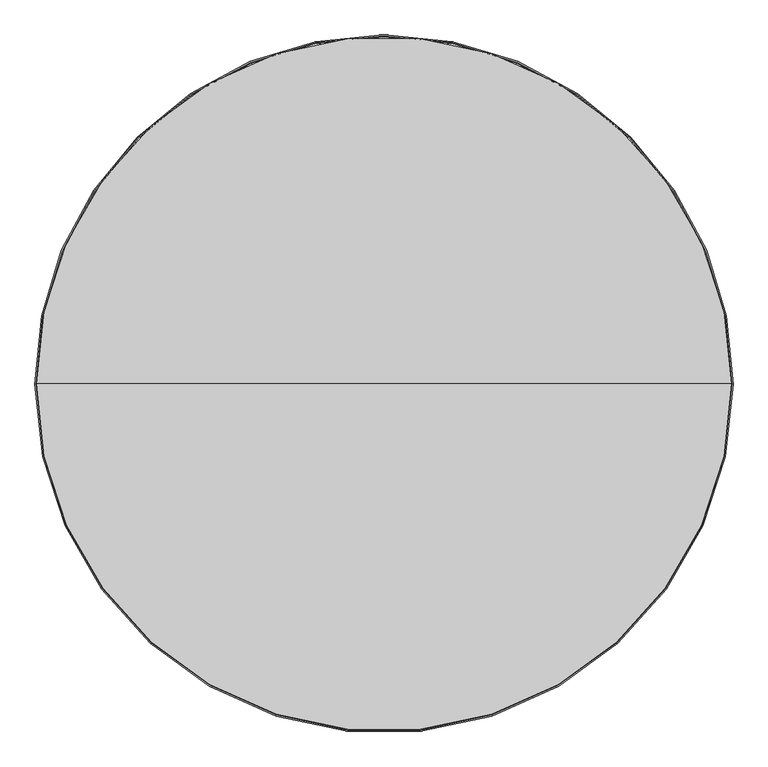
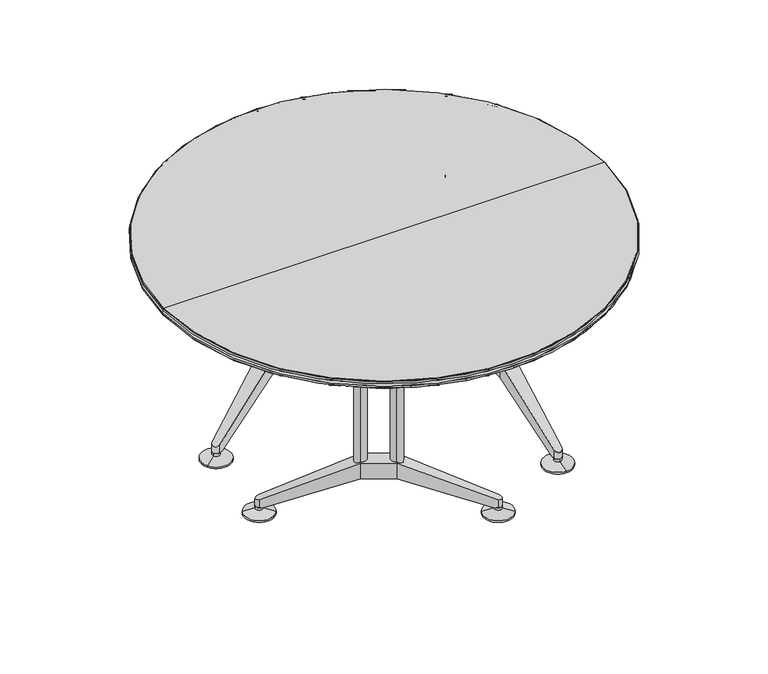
"""IFC4 building model written with IfcOpenShell, lengths in millimetres: furniture geometry, Furniture_Wilkhahn_621-35_Logon Circular Table : Logon 621/35_1500D x 730H."""

from ifc_helpers import new_model, si_unit, point, frame, frame_2d, origin, place, context, project, spatial, polyline, circle_curve, ellipse_curve, trimmed, segment, composite_curve, outline, extrude, source, transform, mapped, element, save
from ifc_brep_helpers import plane_surface, cylinder_surface, revolved_surface, advanced_brep


def furniture_61daccc7(model_context):
    return source(origin(), model_context, "Body", "SolidModel", [
        advanced_brep(
        [(-477.7486747, 184.5991661, 0.0), (-434.4474045, 209.5991661, 0.0), (-521.0499449, 159.5991661, 0.0), (-434.4474045, 209.5991661, 6.0), (-521.0499449, 159.5991661, 6.0), (-466.9444552, 190.8369851, 17.0), (-488.5528941, 178.3613471, 17.0), (-466.9444552, 190.8369851, 27.0), (-488.5528941, 178.3613471, 27.0), (-477.7486747, 184.5991661, 27.0)],
        [
            (0, 1),
            (1, 2, circle_curve(frame((-477.7486747, 184.5991661, 0.0), z_axis=(0.0, 0.0, -1.0), x_axis=(-0.8660254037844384, -0.5000000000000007, 0.0)), 50.0)),
            (2, 0),
            (2, 1, circle_curve(frame((-477.7486747, 184.5991661, 0.0), z_axis=(0.0, 0.0, -1.0), x_axis=(-0.8660254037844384, -0.5000000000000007, 0.0)), 50.0)),
            (1, 3),
            (3, 4, circle_curve(frame((-477.7486747, 184.5991661, 6.0), z_axis=(0.0, 0.0, -1.0), x_axis=(-0.8660254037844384, -0.5000000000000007, 0.0)), 50.0)),
            (4, 2),
            (4, 3, circle_curve(frame((-477.7486747, 184.5991661, 6.0), z_axis=(0.0, 0.0, -1.0), x_axis=(-0.8660254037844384, -0.5000000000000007, 0.0)), 50.0)),
            (3, 5),
            (5, 6, circle_curve(frame((-477.7486747, 184.5991661, 17.0), z_axis=(0.0, 0.0, -1.0), x_axis=(-0.8660254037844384, -0.5000000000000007, 0.0)), 12.475638)),
            (6, 4),
            (6, 5, circle_curve(frame((-477.7486747, 184.5991661, 17.0), z_axis=(0.0, 0.0, -1.0), x_axis=(-0.8660254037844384, -0.5000000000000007, 0.0)), 12.475638)),
            (5, 7),
            (7, 8, circle_curve(frame((-477.7486747, 184.5991661, 27.0), z_axis=(0.0, 0.0, -1.0), x_axis=(-0.8660254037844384, -0.5000000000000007, 0.0)), 12.475638)),
            (8, 6),
            (8, 7, circle_curve(frame((-477.7486747, 184.5991661, 27.0), z_axis=(0.0, 0.0, -1.0), x_axis=(-0.8660254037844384, -0.5000000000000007, 0.0)), 12.475638)),
            (7, 9),
            (9, 8),
        ],
        [
            plane_surface(frame((-477.7486747, 184.5991661, 0.0), z_axis=(0.0, 0.0, -1.0000000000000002), x_axis=(-0.8660254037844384, -0.5000000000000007, 0.0))),
            cylinder_surface(frame((-477.7486747, 184.5991661, 27.0), z_axis=(0.0, 0.0, -1.0), x_axis=(-0.8660254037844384, -0.5000000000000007, 0.0)), 50.0),
            revolved_surface(polyline([(-488.5528941, 178.3613471, 17.0), (-521.0499449, 159.5991661, 6.0)]), (-477.7486747, 184.5991661, 27.0), (0.0, 0.0, -1.0)),
            cylinder_surface(frame((-477.7486747, 184.5991661, 27.0), z_axis=(0.0, 0.0, -1.0), x_axis=(-0.8660254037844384, -0.5000000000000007, 0.0)), 12.475638),
            plane_surface(frame((-477.7486747, 184.5991661, 27.0), z_axis=(0.0, 0.0, 1.0000000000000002), x_axis=(-0.8660254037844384, -0.5000000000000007, 0.0))),
        ],
        [
            (0, [[1, 2, 3]]),
            (0, [[-3, 4, -1]]),
            (1, [[5, 6, 7, -2]]),
            (1, [[-7, 8, -5, -4]]),
            (2, [[9, 10, 11, -6]]),
            (2, [[-11, 12, -9, -8]]),
            (3, [[13, 14, 15, -10]]),
            (3, [[-15, 16, -13, -12]]),
            (4, [[17, 18, -14]]),
            (4, [[-18, -17, -16]]),
        ],
    ),
        advanced_brep(
        [(86.0760594, 510.1235281, 0.0), (129.3773296, 535.1235281, 0.0), (172.6785998, 560.1235281, 0.0), (86.0760594, 510.1235281, 6.0), (172.6785998, 560.1235281, 6.0), (118.5731101, 528.8857091, 17.0), (140.181549, 541.3613471, 17.0), (118.5731101, 528.8857091, 27.0), (140.181549, 541.3613471, 27.0), (129.3773296, 535.1235281, 27.0)],
        [
            (0, 1),
            (1, 2),
            (2, 0, circle_curve(frame((129.3773296, 535.1235281, 0.0), z_axis=(0.0, 0.0, -1.0), x_axis=(0.8660254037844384, 0.5000000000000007, 0.0)), 50.0)),
            (0, 2, circle_curve(frame((129.3773296, 535.1235281, 0.0), z_axis=(0.0, 0.0, -1.0), x_axis=(0.8660254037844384, 0.5000000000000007, 0.0)), 50.0)),
            (3, 0),
            (2, 4),
            (4, 3, circle_curve(frame((129.3773296, 535.1235281, 6.0), z_axis=(0.0, 0.0, -1.0), x_axis=(0.8660254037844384, 0.5000000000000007, 0.0)), 50.0)),
            (3, 4, circle_curve(frame((129.3773296, 535.1235281, 6.0), z_axis=(0.0, 0.0, -1.0), x_axis=(0.8660254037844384, 0.5000000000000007, 0.0)), 50.0)),
            (5, 3),
            (4, 6),
            (6, 5, circle_curve(frame((129.3773296, 535.1235281, 17.0), z_axis=(0.0, 0.0, -1.0), x_axis=(0.8660254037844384, 0.5000000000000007, 0.0)), 12.475638)),
            (5, 6, circle_curve(frame((129.3773296, 535.1235281, 17.0), z_axis=(0.0, 0.0, -1.0), x_axis=(0.8660254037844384, 0.5000000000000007, 0.0)), 12.475638)),
            (7, 5),
            (6, 8),
            (8, 7, circle_curve(frame((129.3773296, 535.1235281, 27.0), z_axis=(0.0, 0.0, -1.0), x_axis=(0.8660254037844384, 0.5000000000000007, 0.0)), 12.475638)),
            (7, 8, circle_curve(frame((129.3773296, 535.1235281, 27.0), z_axis=(0.0, 0.0, -1.0), x_axis=(0.8660254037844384, 0.5000000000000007, 0.0)), 12.475638)),
            (9, 7),
            (8, 9),
        ],
        [
            plane_surface(frame((129.3773296, 535.1235281, 0.0), z_axis=(0.0, 0.0, -1.0000000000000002), x_axis=(0.8660254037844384, 0.5000000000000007, 0.0))),
            cylinder_surface(frame((129.3773296, 535.1235281, 27.0), z_axis=(0.0, 0.0, 1.0), x_axis=(0.8660254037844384, 0.5000000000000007, 0.0)), 50.0),
            revolved_surface(polyline([(172.6785998, 560.1235281, 6.0), (140.181549, 541.3613471, 17.0)]), (129.3773296, 535.1235281, 27.0), (0.0, 0.0, 1.0)),
            cylinder_surface(frame((129.3773296, 535.1235281, 27.0), z_axis=(0.0, 0.0, 1.0), x_axis=(0.8660254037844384, 0.5000000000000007, 0.0)), 12.475638),
            plane_surface(frame((129.3773296, 535.1235281, 27.0), z_axis=(0.0, 0.0, 1.0000000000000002), x_axis=(0.8660254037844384, 0.5000000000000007, 0.0))),
        ],
        [
            (0, [[1, 2, 3]]),
            (0, [[-2, -1, 4]]),
            (1, [[5, -3, 6, 7]]),
            (1, [[-6, -4, -5, 8]]),
            (2, [[9, -7, 10, 11]]),
            (2, [[-10, -8, -9, 12]]),
            (3, [[13, -11, 14, 15]]),
            (3, [[-14, -12, -13, 16]]),
            (4, [[17, -15, 18]]),
            (4, [[-18, -16, -17]]),
        ],
    ),
        extrude(outline(composite_curve([segment(polyline([(-232.5850189, 355.0119822), (-140.7863261, 408.0119822), (-12.9304285, 512.678607)]), True, "CONTINUOUS"), segment(trimmed(circle_curve(frame_2d((-5.3290846, 503.3931576)), 12.0), [point((-12.9304285, 512.678607))], [point((5.0632203, 509.3931576))], False, "CARTESIAN"), True, "CONTINUOUS"), segment(polyline([(5.0632203, 509.3931576), (44.9371204, 440.3295367)]), True, "CONTINUOUS"), segment(trimmed(circle_curve(frame_2d((34.5448155, 434.3295367)), 12.0), [point((44.9371204, 440.3295367))], [point((38.7855787, 423.103855))], False, "CARTESIAN"), True, "CONTINUOUS"), segment(polyline([(38.7855787, 423.103855), (-115.7863261, 364.710712), (-207.5850189, 311.710712), (-335.4409166, 207.0440873)]), True, "CONTINUOUS"), segment(trimmed(circle_curve(frame_2d((-343.0422605, 216.3295367)), 12.0), [point((-335.4409166, 207.0440873))], [point((-353.4345654, 210.3295367))], False, "CARTESIAN"), True, "CONTINUOUS"), segment(polyline([(-353.4345654, 210.3295367), (-393.3084655, 279.3931576)]), True, "CONTINUOUS"), segment(trimmed(circle_curve(frame_2d((-382.9161606, 285.3931576)), 12.0), [point((-393.3084655, 279.3931576))], [point((-387.1569237, 296.6188392))], False, "CARTESIAN"), True, "CONTINUOUS"), segment(polyline([(-387.1569237, 296.6188392), (-232.5850189, 355.0119822)]), True, "CONTINUOUS")], self_intersect=False)), frame((0.0, 0.0, 675.0), z_axis=(0.0, 0.0, 1.0), x_axis=(1.0, 0.0, 0.0)), (0.0, 0.0, 1.0), 29.0),
        advanced_brep(
        [(-115.7863261, 364.710712, 140.0), (-115.7863261, 364.710712, 195.0), (-207.5850189, 311.710712, 195.0), (-207.5850189, 311.710712, 140.0), (-140.7863261, 408.0119822, 195.0), (-140.7863261, 408.0119822, 140.0), (-232.5850189, 355.0119822, 140.0), (-232.5850189, 355.0119822, 195.0), (111.8265892, 540.5710262, 27.0), (122.8826193, 546.3726962, 27.0), (140.181549, 541.3613471, 27.0), (135.8720398, 523.87436, 27.0), (125.3196311, 517.200392, 27.0), (135.8720398, 523.87436, 56.4159205), (140.181549, 541.3613471, 50.6048844), (122.8826193, 546.3726962, 56.4159205), (-484.2433849, 195.8483342, 56.4159205), (-473.6909762, 202.5223022, 27.0), (-484.2433849, 195.8483342, 27.0), (-471.2539644, 173.349998, 27.0), (-460.1979343, 179.1516681, 27.0), (-471.2539644, 173.349998, 56.4159205), (-488.5528941, 178.3613471, 50.6048844), (-488.5528941, 178.3613471, 27.0)],
        [
            (0, 1),
            (1, 2),
            (2, 3),
            (3, 0),
            (4, 5),
            (5, 6),
            (6, 7),
            (7, 4),
            (8, 9),
            (9, 10, circle_curve(frame((128.9232188, 534.8613471, 27.0), z_axis=(0.0, 0.0, -1.0), x_axis=(-0.5000000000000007, 0.8660254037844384, 0.0)), 13.0)),
            (10, 11, circle_curve(frame((128.9232188, 534.8613471, 27.0), z_axis=(0.0, 0.0, -1.0), x_axis=(-0.5000000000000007, 0.8660254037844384, 0.0)), 13.0)),
            (11, 12),
            (12, 8),
            (1, 13),
            (13, 14, ellipse_curve(frame((128.9232188, 534.8613471, 56.6601634), z_axis=(0.3656647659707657, 0.21111665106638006, 0.9064871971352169), x_axis=(0.7850409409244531, 0.4532435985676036, -0.4222333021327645)), 14.341074, 13.0)),
            (14, 15, ellipse_curve(frame((128.9232188, 534.8613471, 56.6601634), z_axis=(0.3656647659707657, 0.21111665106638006, 0.9064871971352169), x_axis=(0.7850409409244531, 0.4532435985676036, -0.4222333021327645)), 14.341074, 13.0)),
            (15, 4),
            (4, 1),
            (5, 8),
            (12, 0),
            (0, 5),
            (16, 7),
            (6, 17),
            (17, 18),
            (18, 16),
            (19, 20),
            (20, 3),
            (2, 21),
            (21, 19),
            (7, 2),
            (3, 6),
            (21, 22, ellipse_curve(frame((-477.2945639, 184.8613471, 56.6601634), z_axis=(0.36566476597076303, 0.21111665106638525, -0.9064871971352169), x_axis=(-0.785040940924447, -0.4532435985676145, -0.4222333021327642)), 14.341074, 13.0)),
            (22, 16, ellipse_curve(frame((-477.2945639, 184.8613471, 56.6601634), z_axis=(0.36566476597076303, 0.21111665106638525, -0.9064871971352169), x_axis=(-0.785040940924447, -0.4532435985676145, -0.4222333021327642)), 14.341074, 13.0)),
            (18, 23, circle_curve(frame((-477.2945639, 184.8613471, 27.0), z_axis=(0.0, 0.0, 1.0), x_axis=(-0.5000000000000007, 0.8660254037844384, 0.0)), 13.0)),
            (23, 19, circle_curve(frame((-477.2945639, 184.8613471, 27.0), z_axis=(0.0, 0.0, 1.0), x_axis=(-0.5000000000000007, 0.8660254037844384, 0.0)), 13.0)),
            (11, 13),
            (9, 15),
            (17, 20),
        ],
        [
            plane_surface(frame((138.1786201, 511.3374421, 27.0), z_axis=(0.5000000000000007, -0.8660254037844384, 0.0), x_axis=(-0.8660254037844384, -0.5000000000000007, 0.0))),
            plane_surface(frame((113.1786201, 554.6387123, 27.0), z_axis=(-0.5000000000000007, 0.8660254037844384, 0.0), x_axis=(0.8660254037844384, 0.5000000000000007, 0.0))),
            plane_surface(frame((106.0731101, 550.5363442, 27.0), z_axis=(0.0, 0.0, -1.0000000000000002), x_axis=(0.5000000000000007, -0.8660254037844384, 0.0))),
            plane_surface(frame((127.681549, 563.0119822, 50.6048844), z_axis=(0.36566476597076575, 0.2111166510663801, 0.9064871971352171), x_axis=(0.5000000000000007, -0.8660254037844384, 0.0))),
            plane_surface(frame((-140.7863261, 408.0119822, 140.0), z_axis=(-0.31915000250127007, -0.18426133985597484, -0.9296187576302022), x_axis=(0.5000000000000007, -0.8660254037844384, 0.0))),
            plane_surface(frame((-232.5850189, 355.0119822, 195.0), z_axis=(-0.5345246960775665, 0.8451528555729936, 0.0), x_axis=(0.0, 0.0, -1.0))),
            plane_surface(frame((-471.2539644, 173.349998, 195.0), z_axis=(0.4646614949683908, -0.8854883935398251, 0.0), x_axis=(0.0, 0.0, -1.0))),
            plane_surface(frame((-140.7863261, 408.0119822, 195.0), z_axis=(0.0, 0.0, 1.0000000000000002), x_axis=(0.5000000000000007, -0.8660254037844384, 0.0))),
            plane_surface(frame((-232.5850189, 355.0119822, 140.0), z_axis=(0.0, 0.0, -1.0000000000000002), x_axis=(0.5000000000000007, -0.8660254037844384, 0.0))),
            cylinder_surface(frame((-477.2945639, 184.8613471, 0.0), z_axis=(0.0, 0.0, -1.0), x_axis=(-0.5000000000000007, 0.8660254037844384, 0.0)), 13.0),
            plane_surface(frame((-115.7863261, 364.710712, 195.0), z_axis=(0.5345246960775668, -0.8451528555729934, 0.0), x_axis=(0.0, 0.0, -1.0))),
            cylinder_surface(frame((128.9232188, 534.8613471, -14.190167), z_axis=(0.0, 0.0, -1.0), x_axis=(-0.5000000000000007, 0.8660254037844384, 0.0)), 13.0),
            plane_surface(frame((122.8826193, 546.3726962, 195.0), z_axis=(-0.4646614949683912, 0.8854883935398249, 0.0), x_axis=(0.0, 0.0, -1.0))),
            plane_surface(frame((-232.5850189, 355.0119822, 195.0), z_axis=(-0.36566476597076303, -0.21111665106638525, 0.9064871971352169), x_axis=(0.5000000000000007, -0.8660254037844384, 0.0))),
            plane_surface(frame((-501.0528941, 200.0119822, 27.0), z_axis=(0.0, 0.0, -1.0000000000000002), x_axis=(0.5000000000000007, -0.8660254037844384, 0.0))),
            plane_surface(frame((-479.4444552, 212.4876202, 27.0), z_axis=(0.3191500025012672, 0.18426133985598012, -0.9296187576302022), x_axis=(0.5000000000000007, -0.8660254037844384, 0.0))),
        ],
        [
            (0, [[1, 2, 3, 4]]),
            (1, [[5, 6, 7, 8]]),
            (2, [[9, 10, 11, 12, 13]]),
            (3, [[14, 15, 16, 17, 18]]),
            (4, [[19, -13, 20, 21]]),
            (5, [[22, -7, 23, 24, 25]]),
            (6, [[26, 27, -3, 28, 29]]),
            (7, [[-18, -8, 30, -2]]),
            (8, [[31, -6, -21, -4]]),
            (9, [[32, 33, -25, 34, 35, -29]]),
            (10, [[-14, -1, -20, -12, 36]]),
            (11, [[-11, -10, 37, -16, -15, -36]]),
            (12, [[-9, -19, -5, -17, -37]]),
            (13, [[-22, -33, -32, -28, -30]]),
            (14, [[-26, -35, -34, -24, 38]]),
            (15, [[-27, -38, -23, -31]]),
        ],
    ),
        extrude(outline(composite_curve([segment(trimmed(circle_curve(frame_2d((-220.0850189, 333.3613471)), 20.0), [point((-210.0850189, 316.040839))], [point((-230.0850189, 350.6818552))], False, "CARTESIAN"), True, "CONTINUOUS"), segment(trimmed(circle_curve(frame_2d((-220.0850189, 333.3613471)), 20.0), [point((-230.0850189, 350.6818552))], [point((-210.0850189, 316.040839))], False, "CARTESIAN"), True, "CONTINUOUS")], self_intersect=False)), frame((0.0, 0.0, 140.0), z_axis=(0.0, 0.0, 1.0), x_axis=(1.0, 0.0, 0.0)), (0.0, 0.0, 1.0), 535.0),
        extrude(outline(composite_curve([segment(trimmed(circle_curve(frame_2d((-128.2863261, 386.3613471)), 20.0), [point((-118.2863261, 369.040839))], [point((-138.2863261, 403.6818552))], False, "CARTESIAN"), True, "CONTINUOUS"), segment(trimmed(circle_curve(frame_2d((-128.2863261, 386.3613471)), 20.0), [point((-138.2863261, 403.6818552))], [point((-118.2863261, 369.040839))], False, "CARTESIAN"), True, "CONTINUOUS")], self_intersect=False)), frame((0.0, 0.0, 140.0), z_axis=(0.0, 0.0, 1.0), x_axis=(1.0, 0.0, 0.0)), (0.0, 0.0, 1.0), 535.0),
        advanced_brep(
        [(101.481129, -467.1153403, 0.0), (58.1798588, -442.1153403, 0.0), (144.7823991, -492.1153403, 0.0), (58.1798588, -442.1153403, 6.0), (144.7823991, -492.1153403, 6.0), (90.6769095, -460.8775213, 17.0), (112.2853484, -473.3531593, 17.0), (90.6769095, -460.8775213, 27.0), (112.2853484, -473.3531593, 27.0), (101.481129, -467.1153403, 27.0)],
        [
            (0, 1),
            (1, 2, circle_curve(frame((101.481129, -467.1153403, 0.0), z_axis=(0.0, 0.0, -1.0), x_axis=(0.8660254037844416, -0.499999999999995, 0.0)), 50.0)),
            (2, 0),
            (2, 1, circle_curve(frame((101.481129, -467.1153403, 0.0), z_axis=(0.0, 0.0, -1.0), x_axis=(0.8660254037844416, -0.499999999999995, 0.0)), 50.0)),
            (1, 3),
            (3, 4, circle_curve(frame((101.481129, -467.1153403, 6.0), z_axis=(0.0, 0.0, -1.0), x_axis=(0.8660254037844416, -0.499999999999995, 0.0)), 50.0)),
            (4, 2),
            (4, 3, circle_curve(frame((101.481129, -467.1153403, 6.0), z_axis=(0.0, 0.0, -1.0), x_axis=(0.8660254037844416, -0.499999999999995, 0.0)), 50.0)),
            (3, 5),
            (5, 6, circle_curve(frame((101.481129, -467.1153403, 17.0), z_axis=(0.0, 0.0, -1.0), x_axis=(0.8660254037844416, -0.499999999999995, 0.0)), 12.475638)),
            (6, 4),
            (6, 5, circle_curve(frame((101.481129, -467.1153403, 17.0), z_axis=(0.0, 0.0, -1.0), x_axis=(0.8660254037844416, -0.499999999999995, 0.0)), 12.475638)),
            (5, 7),
            (7, 8, circle_curve(frame((101.481129, -467.1153403, 27.0), z_axis=(0.0, 0.0, -1.0), x_axis=(0.8660254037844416, -0.499999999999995, 0.0)), 12.475638)),
            (8, 6),
            (8, 7, circle_curve(frame((101.481129, -467.1153403, 27.0), z_axis=(0.0, 0.0, -1.0), x_axis=(0.8660254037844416, -0.499999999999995, 0.0)), 12.475638)),
            (7, 9),
            (9, 8),
        ],
        [
            plane_surface(frame((101.481129, -467.1153403, 0.0), z_axis=(0.0, 0.0, -1.0), x_axis=(0.8660254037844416, -0.499999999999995, 0.0))),
            cylinder_surface(frame((101.481129, -467.1153403, 27.0), z_axis=(0.0, 0.0, -1.0), x_axis=(0.8660254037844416, -0.499999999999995, 0.0)), 50.0),
            revolved_surface(polyline([(112.2853484, -473.3531593, 17.0), (144.7823991, -492.1153403, 6.0)]), (101.481129, -467.1153403, 27.0), (0.0, 0.0, -1.0)),
            cylinder_surface(frame((101.481129, -467.1153403, 27.0), z_axis=(0.0, 0.0, -1.0), x_axis=(0.8660254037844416, -0.499999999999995, 0.0)), 12.475638),
            plane_surface(frame((101.481129, -467.1153403, 27.0), z_axis=(0.0, 0.0, 1.0), x_axis=(0.8660254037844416, -0.499999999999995, 0.0))),
        ],
        [
            (0, [[1, 2, 3]]),
            (0, [[-3, 4, -1]]),
            (1, [[5, 6, 7, -2]]),
            (1, [[-7, 8, -5, -4]]),
            (2, [[9, 10, 11, -6]]),
            (2, [[-11, 12, -9, -8]]),
            (3, [[13, 14, 15, -10]]),
            (3, [[-15, 16, -13, -12]]),
            (4, [[17, 18, -14]]),
            (4, [[-18, -17, -16]]),
        ],
    ),
        advanced_brep(
        [(-462.3436051, -141.5909783, 0.0), (-505.6448753, -116.5909783, 0.0), (-548.9461455, -91.5909783, 0.0), (-462.3436051, -141.5909783, 6.0), (-548.9461455, -91.5909783, 6.0), (-494.8406559, -122.8287973, 17.0), (-516.4490947, -110.3531593, 17.0), (-494.8406559, -122.8287973, 27.0), (-516.4490947, -110.3531593, 27.0), (-505.6448753, -116.5909783, 27.0)],
        [
            (0, 1),
            (1, 2),
            (2, 0, circle_curve(frame((-505.6448753, -116.5909783, 0.0), z_axis=(0.0, 0.0, -1.0), x_axis=(-0.8660254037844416, 0.499999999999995, 0.0)), 50.0)),
            (0, 2, circle_curve(frame((-505.6448753, -116.5909783, 0.0), z_axis=(0.0, 0.0, -1.0), x_axis=(-0.8660254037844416, 0.499999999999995, 0.0)), 50.0)),
            (3, 0),
            (2, 4),
            (4, 3, circle_curve(frame((-505.6448753, -116.5909783, 6.0), z_axis=(0.0, 0.0, -1.0), x_axis=(-0.8660254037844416, 0.499999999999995, 0.0)), 50.0)),
            (3, 4, circle_curve(frame((-505.6448753, -116.5909783, 6.0), z_axis=(0.0, 0.0, -1.0), x_axis=(-0.8660254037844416, 0.499999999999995, 0.0)), 50.0)),
            (5, 3),
            (4, 6),
            (6, 5, circle_curve(frame((-505.6448753, -116.5909783, 17.0), z_axis=(0.0, 0.0, -1.0), x_axis=(-0.8660254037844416, 0.499999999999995, 0.0)), 12.475638)),
            (5, 6, circle_curve(frame((-505.6448753, -116.5909783, 17.0), z_axis=(0.0, 0.0, -1.0), x_axis=(-0.8660254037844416, 0.499999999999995, 0.0)), 12.475638)),
            (7, 5),
            (6, 8),
            (8, 7, circle_curve(frame((-505.6448753, -116.5909783, 27.0), z_axis=(0.0, 0.0, -1.0), x_axis=(-0.8660254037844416, 0.499999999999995, 0.0)), 12.475638)),
            (7, 8, circle_curve(frame((-505.6448753, -116.5909783, 27.0), z_axis=(0.0, 0.0, -1.0), x_axis=(-0.8660254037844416, 0.499999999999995, 0.0)), 12.475638)),
            (9, 7),
            (8, 9),
        ],
        [
            plane_surface(frame((-505.6448753, -116.5909783, 0.0), z_axis=(0.0, 0.0, -1.0), x_axis=(-0.8660254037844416, 0.499999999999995, 0.0))),
            cylinder_surface(frame((-505.6448753, -116.5909783, 27.0), z_axis=(0.0, 0.0, 1.0), x_axis=(-0.8660254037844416, 0.499999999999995, 0.0)), 50.0),
            revolved_surface(polyline([(-548.9461455, -91.5909783, 6.0), (-516.4490947, -110.3531593, 17.0)]), (-505.6448753, -116.5909783, 27.0), (0.0, 0.0, 1.0)),
            cylinder_surface(frame((-505.6448753, -116.5909783, 27.0), z_axis=(0.0, 0.0, 1.0), x_axis=(-0.8660254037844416, 0.499999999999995, 0.0)), 12.475638),
            plane_surface(frame((-505.6448753, -116.5909783, 27.0), z_axis=(0.0, 0.0, 1.0), x_axis=(-0.8660254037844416, 0.499999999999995, 0.0))),
        ],
        [
            (0, [[1, 2, 3]]),
            (0, [[-2, -1, 4]]),
            (1, [[5, -3, 6, 7]]),
            (1, [[-6, -4, -5, 8]]),
            (2, [[9, -7, 10, 11]]),
            (2, [[-10, -8, -9, 12]]),
            (3, [[13, -11, 14, 15]]),
            (3, [[-14, -12, -13, 16]]),
            (4, [[17, -15, 18]]),
            (4, [[-18, -16, -17]]),
        ],
    ),
        extrude(outline(composite_curve([segment(polyline([(-168.6825268, -340.0037944), (-260.4812196, -287.0037944), (-415.0531244, -228.6106514)]), True, "CONTINUOUS"), segment(trimmed(circle_curve(frame_2d((-410.8123613, -217.3849698)), 12.0), [point((-415.0531244, -228.6106514))], [point((-421.2046661, -211.3849698))], False, "CARTESIAN"), True, "CONTINUOUS"), segment(polyline([(-421.2046661, -211.3849698), (-381.330766, -142.3213489)]), True, "CONTINUOUS"), segment(trimmed(circle_curve(frame_2d((-370.9384611, -148.3213489)), 12.0), [point((-381.330766, -142.3213489))], [point((-363.3371172, -139.0358994))], False, "CARTESIAN"), True, "CONTINUOUS"), segment(polyline([(-363.3371172, -139.0358994), (-235.4812196, -243.7025242), (-143.6825268, -296.7025242), (10.889378, -355.0956672)]), True, "CONTINUOUS"), segment(trimmed(circle_curve(frame_2d((6.6486149, -366.3213489)), 12.0), [point((10.889378, -355.0956672))], [point((17.0409198, -372.3213489))], False, "CARTESIAN"), True, "CONTINUOUS"), segment(polyline([(17.0409198, -372.3213489), (-22.8329804, -441.3849698)]), True, "CONTINUOUS"), segment(trimmed(circle_curve(frame_2d((-33.2252852, -435.3849698)), 12.0), [point((-22.8329804, -441.3849698))], [point((-40.8266291, -444.6704192))], False, "CARTESIAN"), True, "CONTINUOUS"), segment(polyline([(-40.8266291, -444.6704192), (-168.6825268, -340.0037944)]), True, "CONTINUOUS")], self_intersect=False)), frame((0.0, 0.0, 675.0), z_axis=(0.0, 0.0, 1.0), x_axis=(1.0, 0.0, 0.0)), (0.0, 0.0, 1.0), 29.0),
        advanced_brep(
        [(-235.4812196, -243.7025242, 140.0), (-235.4812196, -243.7025242, 195.0), (-143.6825268, -296.7025242, 195.0), (-143.6825268, -296.7025242, 140.0), (-260.4812196, -287.0037944, 195.0), (-260.4812196, -287.0037944, 140.0), (-168.6825268, -340.0037944, 140.0), (-168.6825268, -340.0037944, 195.0), (-501.5871768, -134.5141144, 27.0), (-512.1395855, -127.8401464, 27.0), (-516.4490947, -110.3531593, 27.0), (-499.1501651, -105.3418102, 27.0), (-488.0941349, -111.1434802, 27.0), (-499.1501651, -105.3418102, 56.4159205), (-516.4490947, -110.3531593, 50.6048844), (-512.1395855, -127.8401464, 56.4159205), (94.9864187, -478.3645084, 56.4159205), (83.9303886, -472.5628384, 27.0), (94.9864187, -478.3645084, 27.0), (107.9758392, -455.8661722, 27.0), (97.4234305, -449.1922042, 27.0), (107.9758392, -455.8661722, 56.4159205), (112.2853484, -473.3531593, 50.6048844), (112.2853484, -473.3531593, 27.0)],
        [
            (0, 1),
            (1, 2),
            (2, 3),
            (3, 0),
            (4, 5),
            (5, 6),
            (6, 7),
            (7, 4),
            (8, 9),
            (9, 10, circle_curve(frame((-505.1907645, -116.8531593, 27.0), z_axis=(0.0, 0.0, -1.0), x_axis=(-0.499999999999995, -0.8660254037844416, 0.0)), 13.0)),
            (10, 11, circle_curve(frame((-505.1907645, -116.8531593, 27.0), z_axis=(0.0, 0.0, -1.0), x_axis=(-0.499999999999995, -0.8660254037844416, 0.0)), 13.0)),
            (11, 12),
            (12, 8),
            (1, 13),
            (13, 14, ellipse_curve(frame((-505.1907645, -116.8531593, 56.6601634), z_axis=(-0.36566476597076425, 0.21111665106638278, 0.906487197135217), x_axis=(-0.7850409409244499, 0.4532435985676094, -0.4222333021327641)), 14.341074, 13.0)),
            (14, 15, ellipse_curve(frame((-505.1907645, -116.8531593, 56.6601634), z_axis=(-0.36566476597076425, 0.21111665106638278, 0.906487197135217), x_axis=(-0.7850409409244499, 0.4532435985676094, -0.4222333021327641)), 14.341074, 13.0)),
            (15, 4),
            (4, 1),
            (5, 8),
            (12, 0),
            (0, 5),
            (16, 7),
            (6, 17),
            (17, 18),
            (18, 16),
            (19, 20),
            (20, 3),
            (2, 21),
            (21, 19),
            (7, 2),
            (3, 6),
            (21, 22, ellipse_curve(frame((101.0270182, -466.8531593, 56.6601634), z_axis=(-0.3656647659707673, 0.2111166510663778, -0.9064871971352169), x_axis=(0.7850409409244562, -0.4532435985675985, -0.4222333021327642)), 14.341074, 13.0)),
            (22, 16, ellipse_curve(frame((101.0270182, -466.8531593, 56.6601634), z_axis=(-0.3656647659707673, 0.2111166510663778, -0.9064871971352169), x_axis=(0.7850409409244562, -0.4532435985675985, -0.4222333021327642)), 14.341074, 13.0)),
            (18, 23, circle_curve(frame((101.0270182, -466.8531593, 27.0), z_axis=(0.0, 0.0, 1.0), x_axis=(-0.499999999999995, -0.8660254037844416, 0.0)), 13.0)),
            (23, 19, circle_curve(frame((101.0270182, -466.8531593, 27.0), z_axis=(0.0, 0.0, 1.0), x_axis=(-0.499999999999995, -0.8660254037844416, 0.0)), 13.0)),
            (11, 13),
            (9, 15),
            (17, 20),
        ],
        [
            plane_surface(frame((-489.4461658, -97.0757941, 27.0), z_axis=(0.499999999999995, 0.8660254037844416, 0.0), x_axis=(0.8660254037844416, -0.499999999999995, 0.0))),
            plane_surface(frame((-514.4461658, -140.3770643, 27.0), z_axis=(-0.499999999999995, -0.8660254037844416, 0.0), x_axis=(-0.8660254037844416, 0.499999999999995, 0.0))),
            plane_surface(frame((-507.3406559, -144.4794324, 27.0), z_axis=(0.0, 0.0, -1.0), x_axis=(0.499999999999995, 0.8660254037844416, 0.0))),
            plane_surface(frame((-528.9490947, -132.0037944, 50.6048844), z_axis=(-0.36566476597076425, 0.21111665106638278, 0.906487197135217), x_axis=(0.499999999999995, 0.8660254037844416, 0.0))),
            plane_surface(frame((-260.4812196, -287.0037944, 140.0), z_axis=(0.31915000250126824, -0.18426133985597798, -0.929618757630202), x_axis=(0.499999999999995, 0.8660254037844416, 0.0))),
            plane_surface(frame((-168.6825268, -340.0037944, 195.0), z_axis=(-0.4646614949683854, -0.8854883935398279, 0.0), x_axis=(0.0, 0.0, -1.0))),
            plane_surface(frame((107.9758392, -455.8661722, 195.0), z_axis=(0.5345246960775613, 0.8451528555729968, 0.0), x_axis=(0.0, 0.0, -1.0))),
            plane_surface(frame((-260.4812196, -287.0037944, 195.0), z_axis=(0.0, 0.0, 1.0), x_axis=(0.499999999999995, 0.8660254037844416, 0.0))),
            plane_surface(frame((-168.6825268, -340.0037944, 140.0), z_axis=(0.0, 0.0, -1.0), x_axis=(0.499999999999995, 0.8660254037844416, 0.0))),
            cylinder_surface(frame((101.0270182, -466.8531593, 0.0), z_axis=(0.0, 0.0, -1.0), x_axis=(-0.499999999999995, -0.8660254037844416, 0.0)), 13.0),
            plane_surface(frame((-235.4812196, -243.7025242, 195.0), z_axis=(0.46466149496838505, 0.8854883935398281, 0.0), x_axis=(0.0, 0.0, -1.0))),
            cylinder_surface(frame((-505.1907645, -116.8531593, -14.190167), z_axis=(0.0, 0.0, -1.0), x_axis=(-0.499999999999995, -0.8660254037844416, 0.0)), 13.0),
            plane_surface(frame((-512.1395855, -127.8401464, 195.0), z_axis=(-0.5345246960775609, -0.845152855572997, 0.0), x_axis=(0.0, 0.0, -1.0))),
            plane_surface(frame((-168.6825268, -340.0037944, 195.0), z_axis=(0.3656647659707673, -0.2111166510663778, 0.9064871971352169), x_axis=(0.499999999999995, 0.8660254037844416, 0.0))),
            plane_surface(frame((99.7853484, -495.0037944, 27.0), z_axis=(0.0, 0.0, -1.0), x_axis=(0.499999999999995, 0.8660254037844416, 0.0))),
            plane_surface(frame((78.1769095, -482.5281564, 27.0), z_axis=(-0.31915000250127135, 0.18426133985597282, -0.929618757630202), x_axis=(0.499999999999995, 0.8660254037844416, 0.0))),
        ],
        [
            (0, [[1, 2, 3, 4]]),
            (1, [[5, 6, 7, 8]]),
            (2, [[9, 10, 11, 12, 13]]),
            (3, [[14, 15, 16, 17, 18]]),
            (4, [[19, -13, 20, 21]]),
            (5, [[22, -7, 23, 24, 25]]),
            (6, [[26, 27, -3, 28, 29]]),
            (7, [[-18, -8, 30, -2]]),
            (8, [[31, -6, -21, -4]]),
            (9, [[32, 33, -25, 34, 35, -29]]),
            (10, [[-14, -1, -20, -12, 36]]),
            (11, [[-11, -10, 37, -16, -15, -36]]),
            (12, [[-9, -19, -5, -17, -37]]),
            (13, [[-22, -33, -32, -28, -30]]),
            (14, [[-26, -35, -34, -24, 38]]),
            (15, [[-27, -38, -23, -31]]),
        ],
    ),
        extrude(outline(composite_curve([segment(trimmed(circle_curve(frame_2d((-156.1825268, -318.3531593)), 20.0), [point((-146.1825268, -301.0326512))], [point((-166.1825268, -335.6736674))], False, "CARTESIAN"), True, "CONTINUOUS"), segment(trimmed(circle_curve(frame_2d((-156.1825268, -318.3531593)), 20.0), [point((-166.1825268, -335.6736674))], [point((-146.1825268, -301.0326512))], False, "CARTESIAN"), True, "CONTINUOUS")], self_intersect=False)), frame((0.0, 0.0, 140.0), z_axis=(0.0, 0.0, 1.0), x_axis=(1.0, 0.0, 0.0)), (0.0, 0.0, 1.0), 535.0),
        extrude(outline(composite_curve([segment(trimmed(circle_curve(frame_2d((-247.9812196, -265.3531593)), 20.0), [point((-237.9812196, -248.0326512))], [point((-257.9812196, -282.6736674))], False, "CARTESIAN"), True, "CONTINUOUS"), segment(trimmed(circle_curve(frame_2d((-247.9812196, -265.3531593)), 20.0), [point((-257.9812196, -282.6736674))], [point((-237.9812196, -248.0326512))], False, "CARTESIAN"), True, "CONTINUOUS")], self_intersect=False)), frame((0.0, 0.0, 140.0), z_axis=(0.0, 0.0, 1.0), x_axis=(1.0, 0.0, 0.0)), (0.0, 0.0, 1.0), 535.0),
        advanced_brep(
        [(0.0, 25.9511544, 703.9999792), (746.0, 25.9511544, 703.9999792), (-746.0, 25.9511544, 703.9999792), (-746.0257778, 25.9511544, 730.0), (746.0257778, 25.9511544, 730.0), (0.0, 25.9511544, 730.0), (-747.5, 25.9511544, 728.5257778), (747.5, 25.9511544, 728.5257778), (-747.5, 25.9511544, 721.3301166), (747.5, 25.9511544, 721.3301166), (-747.5, 25.9511544, 712.6698626), (747.5, 25.9511544, 712.6698626), (-747.5, 25.9511544, 705.4999792), (747.5, 25.9511544, 705.4999792)],
        [
            (0, 1),
            (1, 2, circle_curve(frame((0.0, 25.9511544, 703.9999792), z_axis=(0.0, 0.0, -1.0), x_axis=(1.0, 0.0, 0.0)), 746.0)),
            (2, 0),
            (2, 1, circle_curve(frame((0.0, 25.9511544, 703.9999792), z_axis=(0.0, 0.0, -1.0), x_axis=(1.0, 0.0, 0.0)), 746.0)),
            (3, 4, circle_curve(frame((0.0, 25.9511544, 730.0), z_axis=(0.0, 0.0, 1.0), x_axis=(1.0, 0.0, 0.0)), 746.0257778)),
            (4, 5),
            (5, 3),
            (4, 3, circle_curve(frame((0.0, 25.9511544, 730.0), z_axis=(0.0, 0.0, 1.0), x_axis=(1.0, 0.0, 0.0)), 746.0257778)),
            (6, 7, circle_curve(frame((0.0, 25.9511544, 728.5257778), z_axis=(0.0, 0.0, 1.0), x_axis=(1.0, 0.0, 0.0)), 747.5)),
            (7, 4, circle_curve(frame((746.0257778, 25.9511544, 728.5257778), z_axis=(0.0, -1.0, 0.0), x_axis=(-1.0, 0.0, 0.0)), 1.4742222)),
            (3, 6, circle_curve(frame((-746.0257778, 25.9511544, 728.5257778), z_axis=(0.0, -1.0, 0.0), x_axis=(1.0, 0.0, 0.0)), 1.4742222)),
            (7, 6, circle_curve(frame((0.0, 25.9511544, 728.5257778), z_axis=(0.0, 0.0, 1.0), x_axis=(1.0, 0.0, 0.0)), 747.5)),
            (8, 9, circle_curve(frame((0.0, 25.9511544, 721.3301166), z_axis=(0.0, 0.0, 1.0), x_axis=(1.0, 0.0, 0.0)), 747.5)),
            (9, 7),
            (6, 8),
            (9, 8, circle_curve(frame((0.0, 25.9511544, 721.3301166), z_axis=(0.0, 0.0, 1.0), x_axis=(1.0, 0.0, 0.0)), 747.5)),
            (10, 11, circle_curve(frame((0.0, 25.9511544, 712.6698626), z_axis=(0.0, 0.0, 1.0), x_axis=(1.0, 0.0, 0.0)), 747.5)),
            (11, 9, circle_curve(frame((745.0306299, 25.9511544, 716.9999896), z_axis=(0.0, -1.0, 0.0), x_axis=(-1.0, 0.0, 0.0)), 4.9847556)),
            (8, 10, circle_curve(frame((-745.0306299, 25.9511544, 716.9999896), z_axis=(0.0, -1.0, 0.0), x_axis=(1.0, 0.0, 0.0)), 4.9847556)),
            (11, 10, circle_curve(frame((0.0, 25.9511544, 712.6698626), z_axis=(0.0, 0.0, 1.0), x_axis=(1.0, 0.0, 0.0)), 747.5)),
            (12, 13, circle_curve(frame((0.0, 25.9511544, 705.4999792), z_axis=(0.0, 0.0, 1.0), x_axis=(1.0, 0.0, 0.0)), 747.5)),
            (13, 11),
            (10, 12),
            (13, 12, circle_curve(frame((0.0, 25.9511544, 705.4999792), z_axis=(0.0, 0.0, 1.0), x_axis=(1.0, 0.0, 0.0)), 747.5)),
            (1, 13, circle_curve(frame((746.0, 25.9511544, 705.4999792), z_axis=(0.0, -1.0, 0.0), x_axis=(-1.0, 0.0, 0.0)), 1.5)),
            (12, 2, circle_curve(frame((-746.0, 25.9511544, 705.4999792), z_axis=(0.0, -1.0, 0.0), x_axis=(1.0, 0.0, 0.0)), 1.5)),
        ],
        [
            plane_surface(frame((0.0, 25.9511544, 703.9999792), z_axis=(0.0, 0.0, -1.0), x_axis=(1.0, 0.0, 0.0))),
            plane_surface(frame((0.0, 25.9511544, 730.0), z_axis=(0.0, 0.0, 1.0), x_axis=(1.0, 0.0, 0.0))),
            revolved_surface(trimmed(ellipse_curve(frame((746.0257778, 25.9511544, 728.5257778), z_axis=(0.0, 1.0, 0.0), x_axis=(-1.0, 0.0, 0.0)), 1.4742222, 1.4742222), [point((746.0257778, 25.9511544, 730.0))], [point((747.5, 25.9511544, 728.5257778))], True, "CARTESIAN"), (0.0, 25.9511544, 790.0), (0.0, 0.0, -1.0)),
            cylinder_surface(frame((0.0, 25.9511544, 790.0), z_axis=(0.0, 0.0, -1.0), x_axis=(1.0, 0.0, 0.0)), 747.5),
            revolved_surface(trimmed(ellipse_curve(frame((745.0306299, 25.9511544, 716.9999896), z_axis=(0.0, 1.0, 0.0), x_axis=(-1.0, 0.0, 0.0)), 4.9847556, 4.9847556), [point((747.5, 25.9511544, 721.3301166))], [point((747.5, 25.9511544, 712.6698626))], True, "CARTESIAN"), (0.0, 25.9511544, 790.0), (0.0, 0.0, -1.0)),
            revolved_surface(trimmed(ellipse_curve(frame((746.0, 25.9511544, 705.4999792), z_axis=(0.0, 1.0, 0.0), x_axis=(-1.0, 0.0, 0.0)), 1.5, 1.5), [point((747.5, 25.9511544, 705.4999792))], [point((746.0, 25.9511544, 703.9999792))], True, "CARTESIAN"), (0.0, 25.9511544, 790.0), (0.0, 0.0, -1.0)),
        ],
        [
            (0, [[1, 2, 3]]),
            (0, [[-3, 4, -1]]),
            (1, [[5, 6, 7]]),
            (1, [[8, -7, -6]]),
            (2, [[9, 10, -5, 11]]),
            (2, [[12, -11, -8, -10]]),
            (3, [[13, 14, -9, 15]]),
            (3, [[16, -15, -12, -14]]),
            (4, [[17, 18, -13, 19]]),
            (4, [[20, -19, -16, -18]]),
            (3, [[21, 22, -17, 23]]),
            (3, [[24, -23, -20, -22]]),
            (5, [[-2, 25, -21, 26]]),
            (5, [[-4, -26, -24, -25]]),
        ],
    ),
        advanced_brep(
        [(376.2675457, 360.3696375, 0.0), (376.2675457, 310.3696375, 0.0), (376.2675457, 410.3696375, 0.0), (376.2675457, 310.3696375, 6.0), (376.2675457, 410.3696375, 6.0), (376.2675457, 347.8939995, 17.0), (376.2675457, 372.8452755, 17.0), (376.2675457, 347.8939995, 27.0), (376.2675457, 372.8452755, 27.0), (376.2675457, 360.3696375, 27.0)],
        [
            (0, 1),
            (1, 2, circle_curve(frame((376.2675457, 360.3696375, 0.0), z_axis=(0.0, 0.0, -1.0), x_axis=(0.0, 1.0000000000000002, 0.0)), 50.0)),
            (2, 0),
            (2, 1, circle_curve(frame((376.2675457, 360.3696375, 0.0), z_axis=(0.0, 0.0, -1.0), x_axis=(0.0, 1.0000000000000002, 0.0)), 50.0)),
            (1, 3),
            (3, 4, circle_curve(frame((376.2675457, 360.3696375, 6.0), z_axis=(0.0, 0.0, -1.0), x_axis=(0.0, 1.0000000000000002, 0.0)), 50.0)),
            (4, 2),
            (4, 3, circle_curve(frame((376.2675457, 360.3696375, 6.0), z_axis=(0.0, 0.0, -1.0), x_axis=(0.0, 1.0000000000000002, 0.0)), 50.0)),
            (3, 5),
            (5, 6, circle_curve(frame((376.2675457, 360.3696375, 17.0), z_axis=(0.0, 0.0, -1.0), x_axis=(0.0, 1.0000000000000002, 0.0)), 12.475638)),
            (6, 4),
            (6, 5, circle_curve(frame((376.2675457, 360.3696375, 17.0), z_axis=(0.0, 0.0, -1.0), x_axis=(0.0, 1.0000000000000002, 0.0)), 12.475638)),
            (5, 7),
            (7, 8, circle_curve(frame((376.2675457, 360.3696375, 27.0), z_axis=(0.0, 0.0, -1.0), x_axis=(0.0, 1.0000000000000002, 0.0)), 12.475638)),
            (8, 6),
            (8, 7, circle_curve(frame((376.2675457, 360.3696375, 27.0), z_axis=(0.0, 0.0, -1.0), x_axis=(0.0, 1.0000000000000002, 0.0)), 12.475638)),
            (7, 9),
            (9, 8),
        ],
        [
            plane_surface(frame((376.2675457, 360.3696375, 0.0), z_axis=(0.0, 0.0, -1.0), x_axis=(0.0, 1.0, 0.0))),
            cylinder_surface(frame((376.2675457, 360.3696375, 27.0), z_axis=(0.0, 0.0, -1.0000000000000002), x_axis=(0.0, 1.0000000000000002, 0.0)), 50.0),
            revolved_surface(polyline([(376.2675457, 372.8452755, 17.0), (376.2675457, 410.3696375, 6.0)]), (376.2675457, 360.3696375, 27.0), (0.0, 0.0, -1.0000000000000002)),
            cylinder_surface(frame((376.2675457, 360.3696375, 27.0), z_axis=(0.0, 0.0, -1.0000000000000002), x_axis=(0.0, 1.0000000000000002, 0.0)), 12.475638),
            plane_surface(frame((376.2675457, 360.3696375, 27.0), z_axis=(0.0, 0.0, 1.0), x_axis=(0.0, 1.0, 0.0))),
        ],
        [
            (0, [[1, 2, 3]]),
            (0, [[-3, 4, -1]]),
            (1, [[5, 6, 7, -2]]),
            (1, [[-7, 8, -5, -4]]),
            (2, [[9, 10, 11, -6]]),
            (2, [[-11, 12, -9, -8]]),
            (3, [[13, 14, 15, -10]]),
            (3, [[-15, 16, -13, -12]]),
            (4, [[17, 18, -14]]),
            (4, [[-18, -17, -16]]),
        ],
    ),
        advanced_brep(
        [(376.2675457, -290.6790865, 0.0), (376.2675457, -340.6790865, 0.0), (376.2675457, -390.6790865, 0.0), (376.2675457, -290.6790865, 6.0), (376.2675457, -390.6790865, 6.0), (376.2675457, -328.2034485, 17.0), (376.2675457, -353.1547245, 17.0), (376.2675457, -328.2034485, 27.0), (376.2675457, -353.1547245, 27.0), (376.2675457, -340.6790865, 27.0)],
        [
            (0, 1),
            (1, 2),
            (2, 0, circle_curve(frame((376.2675457, -340.6790865, 0.0), z_axis=(0.0, 0.0, -1.0), x_axis=(0.0, -1.0000000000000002, 0.0)), 50.0)),
            (0, 2, circle_curve(frame((376.2675457, -340.6790865, 0.0), z_axis=(0.0, 0.0, -1.0), x_axis=(0.0, -1.0000000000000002, 0.0)), 50.0)),
            (3, 0),
            (2, 4),
            (4, 3, circle_curve(frame((376.2675457, -340.6790865, 6.0), z_axis=(0.0, 0.0, -1.0), x_axis=(0.0, -1.0000000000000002, 0.0)), 50.0)),
            (3, 4, circle_curve(frame((376.2675457, -340.6790865, 6.0), z_axis=(0.0, 0.0, -1.0), x_axis=(0.0, -1.0000000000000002, 0.0)), 50.0)),
            (5, 3),
            (4, 6),
            (6, 5, circle_curve(frame((376.2675457, -340.6790865, 17.0), z_axis=(0.0, 0.0, -1.0), x_axis=(0.0, -1.0000000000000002, 0.0)), 12.475638)),
            (5, 6, circle_curve(frame((376.2675457, -340.6790865, 17.0), z_axis=(0.0, 0.0, -1.0), x_axis=(0.0, -1.0000000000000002, 0.0)), 12.475638)),
            (7, 5),
            (6, 8),
            (8, 7, circle_curve(frame((376.2675457, -340.6790865, 27.0), z_axis=(0.0, 0.0, -1.0), x_axis=(0.0, -1.0000000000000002, 0.0)), 12.475638)),
            (7, 8, circle_curve(frame((376.2675457, -340.6790865, 27.0), z_axis=(0.0, 0.0, -1.0), x_axis=(0.0, -1.0000000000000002, 0.0)), 12.475638)),
            (9, 7),
            (8, 9),
        ],
        [
            plane_surface(frame((376.2675457, -340.6790865, 0.0), z_axis=(0.0, 0.0, -1.0), x_axis=(0.0, -1.0, 0.0))),
            cylinder_surface(frame((376.2675457, -340.6790865, 27.0), z_axis=(0.0, 0.0, 1.0000000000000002), x_axis=(0.0, -1.0000000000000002, 0.0)), 50.0),
            revolved_surface(polyline([(376.2675457, -390.6790865, 6.0), (376.2675457, -353.1547245, 17.0)]), (376.2675457, -340.6790865, 27.0), (0.0, 0.0, 1.0000000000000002)),
            cylinder_surface(frame((376.2675457, -340.6790865, 27.0), z_axis=(0.0, 0.0, 1.0000000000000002), x_axis=(0.0, -1.0000000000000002, 0.0)), 12.475638),
            plane_surface(frame((376.2675457, -340.6790865, 27.0), z_axis=(0.0, 0.0, 1.0), x_axis=(0.0, -1.0, 0.0))),
        ],
        [
            (0, [[1, 2, 3]]),
            (0, [[-2, -1, 4]]),
            (1, [[5, -3, 6, 7]]),
            (1, [[-6, -4, -5, 8]]),
            (2, [[9, -7, 10, 11]]),
            (2, [[-10, -8, -9, 12]]),
            (3, [[13, -11, 14, 15]]),
            (3, [[-14, -12, -13, 16]]),
            (4, [[17, -15, 18]]),
            (4, [[-18, -16, -17]]),
        ],
    ),
        extrude(outline(composite_curve([segment(polyline([(401.2675457, 62.8452755), (401.2675457, -43.1547245), (427.9835529, -206.2144923)]), True, "CONTINUOUS"), segment(trimmed(circle_curve(frame_2d((416.1414458, -208.1547245)), 12.0), [point((427.9835529, -206.2144923))], [point((416.1414458, -220.1547245))], False, "CARTESIAN"), True, "CONTINUOUS"), segment(polyline([(416.1414458, -220.1547245), (336.3936456, -220.1547245)]), True, "CONTINUOUS"), segment(trimmed(circle_curve(frame_2d((336.3936456, -208.1547245)), 12.0), [point((336.3936456, -220.1547245))], [point((324.5515386, -206.2144923))], False, "CARTESIAN"), True, "CONTINUOUS"), segment(polyline([(324.5515386, -206.2144923), (351.2675457, -43.1547245), (351.2675457, 62.8452755), (324.5515386, 225.9050433)]), True, "CONTINUOUS"), segment(trimmed(circle_curve(frame_2d((336.3936456, 227.8452755)), 12.0), [point((324.5515386, 225.9050433))], [point((336.3936456, 239.8452755))], False, "CARTESIAN"), True, "CONTINUOUS"), segment(polyline([(336.3936456, 239.8452755), (416.1414458, 239.8452755)]), True, "CONTINUOUS"), segment(trimmed(circle_curve(frame_2d((416.1414458, 227.8452755)), 12.0), [point((416.1414458, 239.8452755))], [point((427.9835529, 225.9050433))], False, "CARTESIAN"), True, "CONTINUOUS"), segment(polyline([(427.9835529, 225.9050433), (401.2675457, 62.8452755)]), True, "CONTINUOUS")], self_intersect=False)), frame((0.0, 0.0, 675.0), z_axis=(0.0, 0.0, 1.0), x_axis=(1.0, 0.0, 0.0)), (0.0, 0.0, 1.0), 29.0),
        advanced_brep(
        [(351.2675457, -43.1547245, 140.0), (351.2675457, -43.1547245, 195.0), (351.2675457, 62.8452755, 195.0), (351.2675457, 62.8452755, 140.0), (401.2675457, -43.1547245, 195.0), (401.2675457, -43.1547245, 140.0), (401.2675457, 62.8452755, 140.0), (401.2675457, 62.8452755, 195.0), (389.7605876, -328.2034485, 27.0), (389.2569662, -340.6790865, 27.0), (376.2675457, -353.1547245, 27.0), (363.2781252, -340.6790865, 27.0), (362.7745038, -328.2034485, 27.0), (363.2781252, -340.6790865, 56.4159205), (376.2675457, -353.1547245, 50.6048844), (389.2569662, -340.6790865, 56.4159205), (389.2569662, 360.3696375, 56.4159205), (389.7605876, 347.8939995, 27.0), (389.2569662, 360.3696375, 27.0), (363.2781252, 360.3696375, 27.0), (362.7745038, 347.8939995, 27.0), (363.2781252, 360.3696375, 56.4159205), (376.2675457, 372.8452755, 50.6048844), (376.2675457, 372.8452755, 27.0)],
        [
            (0, 1),
            (1, 2),
            (2, 3),
            (3, 0),
            (4, 5),
            (5, 6),
            (6, 7),
            (7, 4),
            (8, 9),
            (9, 10, circle_curve(frame((376.2675457, -340.1547245, 27.0), z_axis=(0.0, 0.0, -1.0), x_axis=(1.0, 0.0, 0.0)), 13.0)),
            (10, 11, circle_curve(frame((376.2675457, -340.1547245, 27.0), z_axis=(0.0, 0.0, -1.0), x_axis=(1.0, 0.0, 0.0)), 13.0)),
            (11, 12),
            (12, 8),
            (1, 13),
            (13, 14, ellipse_curve(frame((376.2675457, -340.1547245, 56.6601634), z_axis=(0.0, -0.4222333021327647, 0.9064871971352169), x_axis=(0.0, -0.906487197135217, -0.4222333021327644)), 14.341074, 13.0)),
            (14, 15, ellipse_curve(frame((376.2675457, -340.1547245, 56.6601634), z_axis=(0.0, -0.4222333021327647, 0.9064871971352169), x_axis=(0.0, -0.906487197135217, -0.4222333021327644)), 14.341074, 13.0)),
            (15, 4),
            (4, 1),
            (5, 8),
            (12, 0),
            (0, 5),
            (16, 7),
            (6, 17),
            (17, 18),
            (18, 16),
            (19, 20),
            (20, 3),
            (2, 21),
            (21, 19),
            (7, 2),
            (3, 6),
            (21, 22, ellipse_curve(frame((376.2675457, 359.8452755, 56.6601634), z_axis=(0.0, -0.4222333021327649, -0.9064871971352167), x_axis=(0.0, 0.9064871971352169, -0.4222333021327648)), 14.341074, 13.0)),
            (22, 16, ellipse_curve(frame((376.2675457, 359.8452755, 56.6601634), z_axis=(0.0, -0.4222333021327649, -0.9064871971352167), x_axis=(0.0, 0.9064871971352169, -0.4222333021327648)), 14.341074, 13.0)),
            (18, 23, circle_curve(frame((376.2675457, 359.8452755, 27.0), z_axis=(0.0, 0.0, 1.0), x_axis=(1.0, 0.0, 0.0)), 13.0)),
            (23, 19, circle_curve(frame((376.2675457, 359.8452755, 27.0), z_axis=(0.0, 0.0, 1.0), x_axis=(1.0, 0.0, 0.0)), 13.0)),
            (11, 13),
            (9, 15),
            (17, 20),
        ],
        [
            plane_surface(frame((351.2675457, -336.4081847, 27.0), z_axis=(-1.0, 0.0, 0.0), x_axis=(0.0, 1.0, 0.0))),
            plane_surface(frame((401.2675457, -336.4081847, 27.0), z_axis=(1.0, 0.0, 0.0), x_axis=(0.0, -1.0, 0.0))),
            plane_surface(frame((401.2675457, -328.2034485, 27.0), z_axis=(0.0, 0.0, -1.0), x_axis=(-1.0, 0.0, 0.0))),
            plane_surface(frame((401.2675457, -353.1547245, 50.6048844), z_axis=(0.0, -0.4222333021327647, 0.9064871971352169), x_axis=(-1.0, 0.0, 0.0))),
            plane_surface(frame((401.2675457, -43.1547245, 140.0), z_axis=(0.0, 0.3685226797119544, -0.929618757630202), x_axis=(-1.0, 0.0, 0.0))),
            plane_surface(frame((401.2675457, 62.8452755, 195.0), z_axis=(0.9991861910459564, 0.04033553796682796, 0.0), x_axis=(0.0, 0.0, -1.0))),
            plane_surface(frame((363.2781252, 360.3696375, 195.0), z_axis=(-0.9991861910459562, 0.04033553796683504, 0.0), x_axis=(0.0, 0.0, -1.0))),
            plane_surface(frame((401.2675457, -43.1547245, 195.0), z_axis=(0.0, 0.0, 1.0), x_axis=(-1.0, 0.0, 0.0))),
            plane_surface(frame((401.2675457, 62.8452755, 140.0), z_axis=(0.0, 0.0, -1.0), x_axis=(-1.0, 0.0, 0.0))),
            cylinder_surface(frame((376.2675457, 359.8452755, 0.0), z_axis=(0.0, 0.0, -1.0000000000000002), x_axis=(1.0, 0.0, 0.0)), 13.0),
            plane_surface(frame((351.2675457, -43.1547245, 195.0), z_axis=(-0.9991861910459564, -0.04033553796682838, 0.0), x_axis=(0.0, 0.0, -1.0))),
            cylinder_surface(frame((376.2675457, -340.1547245, -14.190167), z_axis=(0.0, 0.0, -1.0000000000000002), x_axis=(1.0, 0.0, 0.0)), 13.0),
            plane_surface(frame((389.2569662, -340.6790865, 195.0), z_axis=(0.9991861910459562, -0.040335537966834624, 0.0), x_axis=(0.0, 0.0, -1.0))),
            plane_surface(frame((401.2675457, 62.8452755, 195.0), z_axis=(0.0, 0.4222333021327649, 0.9064871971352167), x_axis=(-1.0, 0.0, 0.0))),
            plane_surface(frame((401.2675457, 372.8452755, 27.0), z_axis=(0.0, 0.0, -1.0), x_axis=(-1.0, 0.0, 0.0))),
            plane_surface(frame((401.2675457, 347.8939995, 27.0), z_axis=(0.0, -0.3685226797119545, -0.929618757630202), x_axis=(-1.0, 0.0, 0.0))),
        ],
        [
            (0, [[1, 2, 3, 4]]),
            (1, [[5, 6, 7, 8]]),
            (2, [[9, 10, 11, 12, 13]]),
            (3, [[14, 15, 16, 17, 18]]),
            (4, [[19, -13, 20, 21]]),
            (5, [[22, -7, 23, 24, 25]]),
            (6, [[26, 27, -3, 28, 29]]),
            (7, [[-18, -8, 30, -2]]),
            (8, [[31, -6, -21, -4]]),
            (9, [[32, 33, -25, 34, 35, -29]]),
            (10, [[-14, -1, -20, -12, 36]]),
            (11, [[-11, -10, 37, -16, -15, -36]]),
            (12, [[-9, -19, -5, -17, -37]]),
            (13, [[-22, -33, -32, -28, -30]]),
            (14, [[-26, -35, -34, -24, 38]]),
            (15, [[-27, -38, -23, -31]]),
        ],
    ),
        extrude(outline(composite_curve([segment(trimmed(circle_curve(frame_2d((376.2675457, 62.8452755)), 20.0), [point((356.2675457, 62.8452755))], [point((396.2675457, 62.8452755))], False, "CARTESIAN"), True, "CONTINUOUS"), segment(trimmed(circle_curve(frame_2d((376.2675457, 62.8452755)), 20.0), [point((396.2675457, 62.8452755))], [point((356.2675457, 62.8452755))], False, "CARTESIAN"), True, "CONTINUOUS")], self_intersect=False)), frame((0.0, 0.0, 140.0), z_axis=(0.0, 0.0, 1.0), x_axis=(1.0, 0.0, 0.0)), (0.0, 0.0, 1.0), 535.0),
        extrude(outline(composite_curve([segment(trimmed(circle_curve(frame_2d((376.2675457, -43.1547245)), 20.0), [point((356.2675457, -43.1547245))], [point((396.2675457, -43.1547245))], False, "CARTESIAN"), True, "CONTINUOUS"), segment(trimmed(circle_curve(frame_2d((376.2675457, -43.1547245)), 20.0), [point((396.2675457, -43.1547245))], [point((356.2675457, -43.1547245))], False, "CARTESIAN"), True, "CONTINUOUS")], self_intersect=False)), frame((0.0, 0.0, 140.0), z_axis=(0.0, 0.0, 1.0), x_axis=(1.0, 0.0, 0.0)), (0.0, 0.0, 1.0), 535.0),
    ])


if __name__ == "__main__":
    model = new_model("IFC4")
    model_context = context("Model", 3, world=origin())
    ifc_project = project(units=[si_unit("LENGTHUNIT", "METRE", prefix="MILLI")], contexts=[model_context])
    site = spatial("IfcSite", under=ifc_project)
    building = spatial("IfcBuilding", under=site)
    placement = place(None, origin())
    furniture_shape = furniture_61daccc7(model_context)
    element("IfcFurniture", 1, ObjectType="Furniture_Wilkhahn_621-35_Logon Circular Table : Logon 621/35_1500D x 730H", at=placement, inside=building, context=model_context, shape_type="MappedRepresentation", body=[
        mapped(furniture_shape, transform((0.0, 0.0, 0.0), x_axis=(1.0, 0.0, 0.0), y_axis=(0.0, 1.0, 0.0), z_axis=(0.0, 0.0, 1.0))),
    ])
    save(model, "model.ifc")
